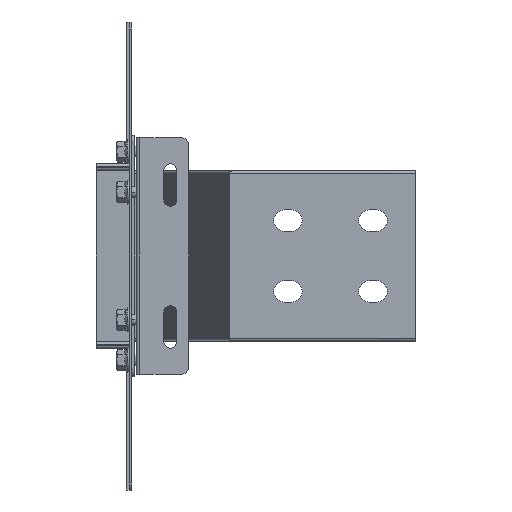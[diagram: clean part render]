
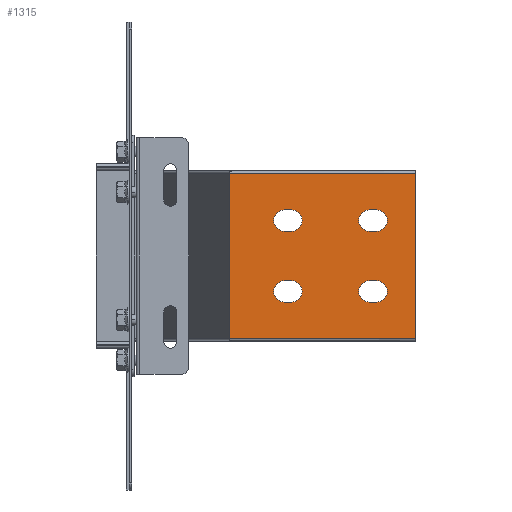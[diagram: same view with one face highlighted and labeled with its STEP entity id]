
A CAD part, front view. The second image highlights one B-rep face of the part: STEP entity #1315.
In plain terms, the highlighted planar face has unit normal (0, -1, 0).
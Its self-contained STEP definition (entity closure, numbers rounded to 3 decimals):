
#1143=AXIS2_PLACEMENT_3D('Plane Axis2P3D',#1140,#1141,#1142) ;
#1181=AXIS2_PLACEMENT_3D('Circle Axis2P3D',#1179,#1180,$) ;
#1197=AXIS2_PLACEMENT_3D('Circle Axis2P3D',#1195,#1196,$) ;
#1215=AXIS2_PLACEMENT_3D('Circle Axis2P3D',#1213,#1214,$) ;
#1231=AXIS2_PLACEMENT_3D('Circle Axis2P3D',#1229,#1230,$) ;
#1249=AXIS2_PLACEMENT_3D('Circle Axis2P3D',#1247,#1248,$) ;
#1265=AXIS2_PLACEMENT_3D('Circle Axis2P3D',#1263,#1264,$) ;
#1292=AXIS2_PLACEMENT_3D('Circle Axis2P3D',#1290,#1291,$) ;
#1306=AXIS2_PLACEMENT_3D('Circle Axis2P3D',#1304,#1305,$) ;
#1140=CARTESIAN_POINT('Axis2P3D Location',(200.,-151.75,-58.25)) ;
#1145=CARTESIAN_POINT('Line Origine',(134.417,-151.75,-58.25)) ;
#1149=CARTESIAN_POINT('Vertex',(200.,-151.75,-58.25)) ;
#1151=CARTESIAN_POINT('Vertex',(68.835,-151.75,-58.25)) ;
#1154=CARTESIAN_POINT('Line Origine',(200.,-151.75,0.)) ;
#1158=CARTESIAN_POINT('Vertex',(200.,-151.75,58.25)) ;
#1161=CARTESIAN_POINT('Line Origine',(134.417,-151.75,58.25)) ;
#1165=CARTESIAN_POINT('Vertex',(68.835,-151.75,58.25)) ;
#1168=CARTESIAN_POINT('Line Origine',(68.835,-151.75,0.)) ;
#1179=CARTESIAN_POINT('Axis2P3D Location',(112.5,-151.75,25.)) ;
#1183=CARTESIAN_POINT('Vertex',(112.5,-151.75,17.5)) ;
#1185=CARTESIAN_POINT('Vertex',(112.5,-151.75,32.5)) ;
#1188=CARTESIAN_POINT('Line Origine',(110.,-151.75,17.5)) ;
#1192=CARTESIAN_POINT('Vertex',(107.5,-151.75,17.5)) ;
#1195=CARTESIAN_POINT('Axis2P3D Location',(107.5,-151.75,25.)) ;
#1199=CARTESIAN_POINT('Vertex',(107.5,-151.75,32.5)) ;
#1202=CARTESIAN_POINT('Line Origine',(110.,-151.75,32.5)) ;
#1213=CARTESIAN_POINT('Axis2P3D Location',(172.5,-151.75,25.)) ;
#1217=CARTESIAN_POINT('Vertex',(172.5,-151.75,17.5)) ;
#1219=CARTESIAN_POINT('Vertex',(172.5,-151.75,32.5)) ;
#1222=CARTESIAN_POINT('Line Origine',(170.,-151.75,17.5)) ;
#1226=CARTESIAN_POINT('Vertex',(167.5,-151.75,17.5)) ;
#1229=CARTESIAN_POINT('Axis2P3D Location',(167.5,-151.75,25.)) ;
#1233=CARTESIAN_POINT('Vertex',(167.5,-151.75,32.5)) ;
#1236=CARTESIAN_POINT('Line Origine',(170.,-151.75,32.5)) ;
#1247=CARTESIAN_POINT('Axis2P3D Location',(107.5,-151.75,-25.)) ;
#1251=CARTESIAN_POINT('Vertex',(107.5,-151.75,-17.5)) ;
#1253=CARTESIAN_POINT('Vertex',(107.5,-151.75,-32.5)) ;
#1256=CARTESIAN_POINT('Line Origine',(110.,-151.75,-17.5)) ;
#1260=CARTESIAN_POINT('Vertex',(112.5,-151.75,-17.5)) ;
#1263=CARTESIAN_POINT('Axis2P3D Location',(112.5,-151.75,-25.)) ;
#1267=CARTESIAN_POINT('Vertex',(112.5,-151.75,-32.5)) ;
#1270=CARTESIAN_POINT('Line Origine',(110.,-151.75,-32.5)) ;
#1281=CARTESIAN_POINT('Line Origine',(170.,-151.75,-17.5)) ;
#1285=CARTESIAN_POINT('Vertex',(172.5,-151.75,-17.5)) ;
#1287=CARTESIAN_POINT('Vertex',(167.5,-151.75,-17.5)) ;
#1290=CARTESIAN_POINT('Axis2P3D Location',(172.5,-151.75,-25.)) ;
#1294=CARTESIAN_POINT('Vertex',(172.5,-151.75,-32.5)) ;
#1297=CARTESIAN_POINT('Line Origine',(170.,-151.75,-32.5)) ;
#1301=CARTESIAN_POINT('Vertex',(167.5,-151.75,-32.5)) ;
#1304=CARTESIAN_POINT('Axis2P3D Location',(167.5,-151.75,-25.)) ;
#1141=DIRECTION('Axis2P3D Direction',(0.,-1.,0.)) ;
#1142=DIRECTION('Axis2P3D XDirection',(0.,0.,1.)) ;
#1146=DIRECTION('Vector Direction',(-1.,0.,0.)) ;
#1155=DIRECTION('Vector Direction',(0.,0.,1.)) ;
#1162=DIRECTION('Vector Direction',(-1.,0.,0.)) ;
#1169=DIRECTION('Vector Direction',(0.,0.,1.)) ;
#1180=DIRECTION('Axis2P3D Direction',(0.,-1.,0.)) ;
#1189=DIRECTION('Vector Direction',(-1.,0.,0.)) ;
#1196=DIRECTION('Axis2P3D Direction',(0.,-1.,0.)) ;
#1203=DIRECTION('Vector Direction',(1.,0.,0.)) ;
#1214=DIRECTION('Axis2P3D Direction',(0.,-1.,0.)) ;
#1223=DIRECTION('Vector Direction',(1.,0.,0.)) ;
#1230=DIRECTION('Axis2P3D Direction',(0.,-1.,0.)) ;
#1237=DIRECTION('Vector Direction',(-1.,0.,0.)) ;
#1248=DIRECTION('Axis2P3D Direction',(0.,-1.,0.)) ;
#1257=DIRECTION('Vector Direction',(-1.,0.,0.)) ;
#1264=DIRECTION('Axis2P3D Direction',(0.,-1.,0.)) ;
#1271=DIRECTION('Vector Direction',(1.,0.,0.)) ;
#1282=DIRECTION('Vector Direction',(1.,0.,0.)) ;
#1291=DIRECTION('Axis2P3D Direction',(0.,-1.,0.)) ;
#1298=DIRECTION('Vector Direction',(-1.,0.,0.)) ;
#1305=DIRECTION('Axis2P3D Direction',(0.,-1.,0.)) ;
#1147=VECTOR('Line Direction',#1146,1.) ;
#1156=VECTOR('Line Direction',#1155,1.) ;
#1163=VECTOR('Line Direction',#1162,1.) ;
#1170=VECTOR('Line Direction',#1169,1.) ;
#1190=VECTOR('Line Direction',#1189,1.) ;
#1204=VECTOR('Line Direction',#1203,1.) ;
#1224=VECTOR('Line Direction',#1223,1.) ;
#1238=VECTOR('Line Direction',#1237,1.) ;
#1258=VECTOR('Line Direction',#1257,1.) ;
#1272=VECTOR('Line Direction',#1271,1.) ;
#1283=VECTOR('Line Direction',#1282,1.) ;
#1299=VECTOR('Line Direction',#1298,1.) ;
#1174=ORIENTED_EDGE('',*,*,#1153,.F.) ;
#1175=ORIENTED_EDGE('',*,*,#1160,.F.) ;
#1176=ORIENTED_EDGE('',*,*,#1167,.T.) ;
#1177=ORIENTED_EDGE('',*,*,#1172,.F.) ;
#1208=ORIENTED_EDGE('',*,*,#1187,.F.) ;
#1209=ORIENTED_EDGE('',*,*,#1194,.F.) ;
#1210=ORIENTED_EDGE('',*,*,#1201,.F.) ;
#1211=ORIENTED_EDGE('',*,*,#1206,.F.) ;
#1242=ORIENTED_EDGE('',*,*,#1221,.F.) ;
#1243=ORIENTED_EDGE('',*,*,#1228,.F.) ;
#1244=ORIENTED_EDGE('',*,*,#1235,.F.) ;
#1245=ORIENTED_EDGE('',*,*,#1240,.F.) ;
#1276=ORIENTED_EDGE('',*,*,#1255,.F.) ;
#1277=ORIENTED_EDGE('',*,*,#1262,.F.) ;
#1278=ORIENTED_EDGE('',*,*,#1269,.F.) ;
#1279=ORIENTED_EDGE('',*,*,#1274,.F.) ;
#1310=ORIENTED_EDGE('',*,*,#1289,.F.) ;
#1311=ORIENTED_EDGE('',*,*,#1296,.F.) ;
#1312=ORIENTED_EDGE('',*,*,#1303,.F.) ;
#1313=ORIENTED_EDGE('',*,*,#1308,.F.) ;
#1212=FACE_BOUND('',#1207,.T.) ;
#1246=FACE_BOUND('',#1241,.T.) ;
#1280=FACE_BOUND('',#1275,.T.) ;
#1314=FACE_BOUND('',#1309,.T.) ;
#1315=ADVANCED_FACE('N',(#1178,#1212,#1246,#1280,#1314),#1144,.T.) ;
#1182=CIRCLE('generated circle',#1181,7.5) ;
#1198=CIRCLE('generated circle',#1197,7.5) ;
#1216=CIRCLE('generated circle',#1215,7.5) ;
#1232=CIRCLE('generated circle',#1231,7.5) ;
#1250=CIRCLE('generated circle',#1249,7.5) ;
#1266=CIRCLE('generated circle',#1265,7.5) ;
#1293=CIRCLE('generated circle',#1292,7.5) ;
#1307=CIRCLE('generated circle',#1306,7.5) ;
#1153=EDGE_CURVE('',#1150,#1152,#1148,.T.) ;
#1160=EDGE_CURVE('',#1159,#1150,#1157,.F.) ;
#1167=EDGE_CURVE('',#1159,#1166,#1164,.T.) ;
#1172=EDGE_CURVE('',#1152,#1166,#1171,.T.) ;
#1187=EDGE_CURVE('',#1184,#1186,#1182,.T.) ;
#1194=EDGE_CURVE('',#1193,#1184,#1191,.F.) ;
#1201=EDGE_CURVE('',#1200,#1193,#1198,.T.) ;
#1206=EDGE_CURVE('',#1186,#1200,#1205,.F.) ;
#1221=EDGE_CURVE('',#1218,#1220,#1216,.T.) ;
#1228=EDGE_CURVE('',#1227,#1218,#1225,.T.) ;
#1235=EDGE_CURVE('',#1234,#1227,#1232,.T.) ;
#1240=EDGE_CURVE('',#1220,#1234,#1239,.T.) ;
#1255=EDGE_CURVE('',#1252,#1254,#1250,.T.) ;
#1262=EDGE_CURVE('',#1261,#1252,#1259,.T.) ;
#1269=EDGE_CURVE('',#1268,#1261,#1266,.T.) ;
#1274=EDGE_CURVE('',#1254,#1268,#1273,.T.) ;
#1289=EDGE_CURVE('',#1286,#1288,#1284,.F.) ;
#1296=EDGE_CURVE('',#1295,#1286,#1293,.T.) ;
#1303=EDGE_CURVE('',#1302,#1295,#1300,.F.) ;
#1308=EDGE_CURVE('',#1288,#1302,#1307,.T.) ;
#1173=EDGE_LOOP('',(#1174,#1175,#1176,#1177)) ;
#1207=EDGE_LOOP('',(#1208,#1209,#1210,#1211)) ;
#1241=EDGE_LOOP('',(#1242,#1243,#1244,#1245)) ;
#1275=EDGE_LOOP('',(#1276,#1277,#1278,#1279)) ;
#1309=EDGE_LOOP('',(#1310,#1311,#1312,#1313)) ;
#1178=FACE_OUTER_BOUND('',#1173,.T.) ;
#1148=LINE('Line',#1145,#1147) ;
#1157=LINE('Line',#1154,#1156) ;
#1164=LINE('Line',#1161,#1163) ;
#1171=LINE('Line',#1168,#1170) ;
#1191=LINE('Line',#1188,#1190) ;
#1205=LINE('Line',#1202,#1204) ;
#1225=LINE('Line',#1222,#1224) ;
#1239=LINE('Line',#1236,#1238) ;
#1259=LINE('Line',#1256,#1258) ;
#1273=LINE('Line',#1270,#1272) ;
#1284=LINE('Line',#1281,#1283) ;
#1300=LINE('Line',#1297,#1299) ;
#1144=PLANE('',#1143) ;
#1150=VERTEX_POINT('',#1149) ;
#1152=VERTEX_POINT('',#1151) ;
#1159=VERTEX_POINT('',#1158) ;
#1166=VERTEX_POINT('',#1165) ;
#1184=VERTEX_POINT('',#1183) ;
#1186=VERTEX_POINT('',#1185) ;
#1193=VERTEX_POINT('',#1192) ;
#1200=VERTEX_POINT('',#1199) ;
#1218=VERTEX_POINT('',#1217) ;
#1220=VERTEX_POINT('',#1219) ;
#1227=VERTEX_POINT('',#1226) ;
#1234=VERTEX_POINT('',#1233) ;
#1252=VERTEX_POINT('',#1251) ;
#1254=VERTEX_POINT('',#1253) ;
#1261=VERTEX_POINT('',#1260) ;
#1268=VERTEX_POINT('',#1267) ;
#1286=VERTEX_POINT('',#1285) ;
#1288=VERTEX_POINT('',#1287) ;
#1295=VERTEX_POINT('',#1294) ;
#1302=VERTEX_POINT('',#1301) ;
